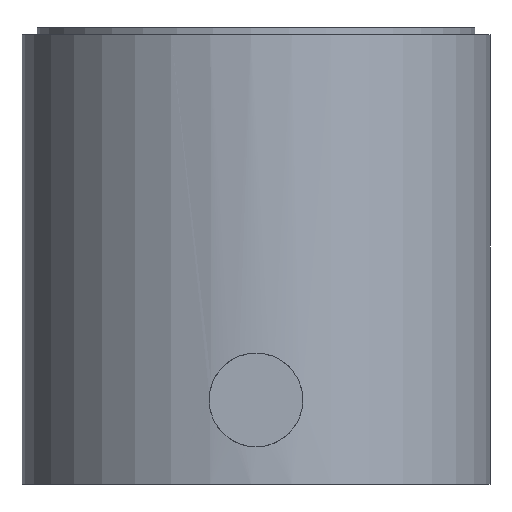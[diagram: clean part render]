
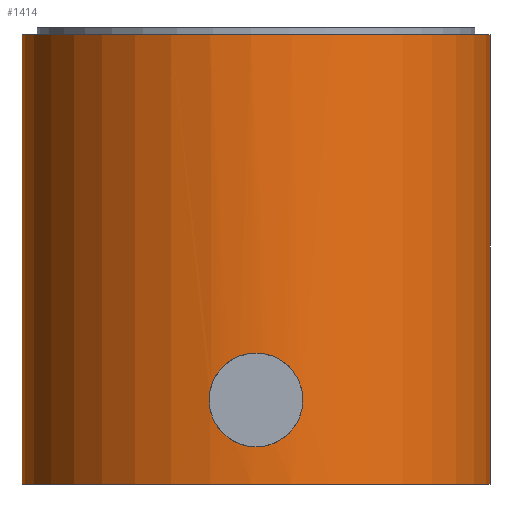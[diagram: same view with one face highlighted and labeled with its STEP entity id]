
A CAD part, front view. The second image highlights one B-rep face of the part: STEP entity #1414.
In plain terms, the highlighted cylindrical face has radius 10 mm (diameter 20 mm), a partial arc.
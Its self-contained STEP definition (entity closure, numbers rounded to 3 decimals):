
#3 = CYLINDRICAL_SURFACE ( 'NONE', #1348, 10. ) ;
#6 = CARTESIAN_POINT ( 'NONE',  ( 9.998, -0.215, 0. ) ) ;
#17 = LINE ( 'NONE', #1684, #310 ) ;
#21 = CARTESIAN_POINT ( 'NONE',  ( -1.797, -9.837, 2.712 ) ) ;
#31 = CARTESIAN_POINT ( 'NONE',  ( -2., -9.798, 3.6 ) ) ;
#33 = CARTESIAN_POINT ( 'NONE',  ( 1.947, -9.809, 4.125 ) ) ;
#36 = AXIS2_PLACEMENT_3D ( 'NONE', #458, #1438, #593 ) ;
#44 = CARTESIAN_POINT ( 'NONE',  ( -0.261, -9.997, 5.587 ) ) ;
#50 = CARTESIAN_POINT ( 'NONE',  ( -0.262, -10., 1.6 ) ) ;
#67 = EDGE_CURVE ( 'NONE', #545, #1709, #17, .T. ) ;
#78 = CARTESIAN_POINT ( 'NONE',  ( 0., 0., 19.2 ) ) ;
#93 = CARTESIAN_POINT ( 'NONE',  ( -1.321, -9.913, 5.107 ) ) ;
#111 = CARTESIAN_POINT ( 'NONE',  ( -2., -9.798, 3.6 ) ) ;
#125 = CARTESIAN_POINT ( 'NONE',  ( 0., 0., 0. ) ) ;
#128 = ORIENTED_EDGE ( 'NONE', *, *, #800, .F. ) ;
#133 = CIRCLE ( 'NONE', #699, 10. ) ;
#164 = CARTESIAN_POINT ( 'NONE',  ( 1.735, -9.849, 4.603 ) ) ;
#165 = CARTESIAN_POINT ( 'NONE',  ( -0.645, -9.98, 5.498 ) ) ;
#175 = CIRCLE ( 'NONE', #36, 10. ) ;
#201 = EDGE_CURVE ( 'NONE', #1452, #1753, #680, .T. ) ;
#205 = CARTESIAN_POINT ( 'NONE',  ( -1.897, -9.818, 2.954 ) ) ;
#230 = CARTESIAN_POINT ( 'NONE',  ( 1.507, -9.886, 2.279 ) ) ;
#249 = CARTESIAN_POINT ( 'NONE',  ( 0.13, -10., 1.6 ) ) ;
#289 = EDGE_LOOP ( 'NONE', ( #984, #128, #1199, #677 ) ) ;
#305 = CARTESIAN_POINT ( 'NONE',  ( 1.507, -9.886, 4.921 ) ) ;
#310 = VECTOR ( 'NONE', #973, 1000. ) ;
#412 = CARTESIAN_POINT ( 'NONE',  ( 0.52, -9.987, 1.664 ) ) ;
#437 = CARTESIAN_POINT ( 'NONE',  ( 2., -9.798, 3.6 ) ) ;
#451 = CARTESIAN_POINT ( 'NONE',  ( 1.323, -9.913, 5.106 ) ) ;
#458 = CARTESIAN_POINT ( 'NONE',  ( 0., 0., 19.2 ) ) ;
#478 = ORIENTED_EDGE ( 'NONE', *, *, #201, .F. ) ;
#506 = CARTESIAN_POINT ( 'NONE',  ( -1.935, -9.811, 4.121 ) ) ;
#509 = B_SPLINE_CURVE_WITH_KNOTS ( 'NONE', 3,
 ( #437, #1274, #33, #991, #164, #1140, #305, #451, #1425, #579, #1568, #715, #1705, #851, #44, #997, #165, #1149, #733, #1762, #93, #645, #1487, #910, #506, #1345, #1494, #31 ),
 .UNSPECIFIED., .F., .F.,
 ( 4, 2, 2, 2, 2, 2, 2, 2, 2, 2, 2, 2, 2, 4 ),
 ( 0.006, 0.007, 0.007, 0.008, 0.008, 0.009, 0.009, 0.01, 0.01, 0.011, 0.011, 0.012, 0.012, 0.013 ),
 .UNSPECIFIED. ) ;
#519 = VERTEX_POINT ( 'NONE', #6 ) ;
#541 = LINE ( 'NONE', #899, #876 ) ;
#545 = VERTEX_POINT ( 'NONE', #1322 ) ;
#579 = CARTESIAN_POINT ( 'NONE',  ( 1.004, -9.95, 5.335 ) ) ;
#593 = DIRECTION ( 'NONE',  ( 1., -0.022, 0. ) ) ;
#606 = CARTESIAN_POINT ( 'NONE',  ( 1.987, -9.801, 3.337 ) ) ;
#612 = CARTESIAN_POINT ( 'NONE',  ( -0.526, -9.989, 1.653 ) ) ;
#645 = CARTESIAN_POINT ( 'NONE',  ( -1.597, -9.873, 4.831 ) ) ;
#663 = CARTESIAN_POINT ( 'NONE',  ( -9.998, 0.215, 0. ) ) ;
#677 = ORIENTED_EDGE ( 'NONE', *, *, #1172, .T. ) ;
#680 = B_SPLINE_CURVE_WITH_KNOTS ( 'NONE', 3,
 ( #111, #1757, #1450, #1532, #205, #21, #1539, #1248, #701, #1388, #1706, #612, #50, #249, #1559, #412, #1241, #963, #1372, #230, #832, #1298, #1423, #1081, #1410, #606, #1378, #1192 ),
 .UNSPECIFIED., .F., .F.,
 ( 4, 2, 2, 2, 2, 2, 2, 2, 2, 2, 2, 2, 2, 4 ),
 ( 0., 0., 0.001, 0.001, 0.002, 0.002, 0.003, 0.004, 0.004, 0.005, 0.005, 0.005, 0.006, 0.006 ),
 .UNSPECIFIED. ) ;
#699 = AXIS2_PLACEMENT_3D ( 'NONE', #125, #1097, #1379 ) ;
#701 = CARTESIAN_POINT ( 'NONE',  ( -1.506, -9.886, 2.277 ) ) ;
#715 = CARTESIAN_POINT ( 'NONE',  ( 0.525, -9.989, 5.548 ) ) ;
#733 = CARTESIAN_POINT ( 'NONE',  ( -1.001, -9.95, 5.336 ) ) ;
#758 = DIRECTION ( 'NONE',  ( 0., 0., -1. ) ) ;
#800 = EDGE_CURVE ( 'NONE', #545, #946, #175, .T. ) ;
#832 = CARTESIAN_POINT ( 'NONE',  ( 1.59, -9.873, 2.38 ) ) ;
#851 = CARTESIAN_POINT ( 'NONE',  ( -0.131, -10., 5.6 ) ) ;
#876 = VECTOR ( 'NONE', #1195, 1000. ) ;
#899 = CARTESIAN_POINT ( 'NONE',  ( 9.998, -0.215, 19.2 ) ) ;
#910 = CARTESIAN_POINT ( 'NONE',  ( -1.897, -9.819, 4.248 ) ) ;
#946 = VERTEX_POINT ( 'NONE', #1615 ) ;
#955 = EDGE_CURVE ( 'NONE', #946, #519, #541, .T. ) ;
#963 = CARTESIAN_POINT ( 'NONE',  ( 1.008, -9.952, 1.853 ) ) ;
#973 = DIRECTION ( 'NONE',  ( 0., 0., -1. ) ) ;
#984 = ORIENTED_EDGE ( 'NONE', *, *, #955, .F. ) ;
#991 = CARTESIAN_POINT ( 'NONE',  ( 1.798, -9.837, 4.486 ) ) ;
#995 = CARTESIAN_POINT ( 'NONE',  ( 2., -9.798, 3.6 ) ) ;
#997 = CARTESIAN_POINT ( 'NONE',  ( -0.517, -9.987, 5.536 ) ) ;
#1081 = CARTESIAN_POINT ( 'NONE',  ( 1.898, -9.818, 2.955 ) ) ;
#1097 = DIRECTION ( 'NONE',  ( 0., 0., 1. ) ) ;
#1140 = CARTESIAN_POINT ( 'NONE',  ( 1.59, -9.873, 4.821 ) ) ;
#1149 = CARTESIAN_POINT ( 'NONE',  ( -0.887, -9.961, 5.398 ) ) ;
#1172 = EDGE_CURVE ( 'NONE', #1709, #519, #133, .T. ) ;
#1192 = CARTESIAN_POINT ( 'NONE',  ( 2., -9.798, 3.6 ) ) ;
#1195 = DIRECTION ( 'NONE',  ( 0., 0., -1. ) ) ;
#1199 = ORIENTED_EDGE ( 'NONE', *, *, #67, .T. ) ;
#1239 = ORIENTED_EDGE ( 'NONE', *, *, #1489, .F. ) ;
#1241 = CARTESIAN_POINT ( 'NONE',  ( 0.645, -9.98, 1.702 ) ) ;
#1248 = CARTESIAN_POINT ( 'NONE',  ( -1.59, -9.873, 2.38 ) ) ;
#1263 = EDGE_LOOP ( 'NONE', ( #478, #1239 ) ) ;
#1264 = CARTESIAN_POINT ( 'NONE',  ( -2., -9.798, 3.6 ) ) ;
#1274 = CARTESIAN_POINT ( 'NONE',  ( 2., -9.798, 3.861 ) ) ;
#1298 = CARTESIAN_POINT ( 'NONE',  ( 1.735, -9.849, 2.596 ) ) ;
#1322 = CARTESIAN_POINT ( 'NONE',  ( -9.998, 0.215, 19.2 ) ) ;
#1345 = CARTESIAN_POINT ( 'NONE',  ( -1.987, -9.801, 3.863 ) ) ;
#1348 = AXIS2_PLACEMENT_3D ( 'NONE', #78, #758, #1472 ) ;
#1350 = FACE_BOUND ( 'NONE', #1263, .T. ) ;
#1372 = CARTESIAN_POINT ( 'NONE',  ( 1.228, -9.926, 2. ) ) ;
#1378 = CARTESIAN_POINT ( 'NONE',  ( 2., -9.798, 3.469 ) ) ;
#1379 = DIRECTION ( 'NONE',  ( 1., -0.022, 0. ) ) ;
#1388 = CARTESIAN_POINT ( 'NONE',  ( -1.23, -9.926, 2.002 ) ) ;
#1410 = CARTESIAN_POINT ( 'NONE',  ( 1.936, -9.811, 3.079 ) ) ;
#1414 = ADVANCED_FACE ( 'NONE', ( #1418, #1350 ), #3, .T. ) ;
#1418 = FACE_OUTER_BOUND ( 'NONE', #289, .T. ) ;
#1423 = CARTESIAN_POINT ( 'NONE',  ( 1.797, -9.837, 2.713 ) ) ;
#1425 = CARTESIAN_POINT ( 'NONE',  ( 1.22, -9.926, 5.19 ) ) ;
#1438 = DIRECTION ( 'NONE',  ( 0., 0., 1. ) ) ;
#1450 = CARTESIAN_POINT ( 'NONE',  ( -1.987, -9.801, 3.337 ) ) ;
#1452 = VERTEX_POINT ( 'NONE', #1264 ) ;
#1472 = DIRECTION ( 'NONE',  ( -1., 0.022, 0. ) ) ;
#1487 = CARTESIAN_POINT ( 'NONE',  ( -1.746, -9.847, 4.609 ) ) ;
#1489 = EDGE_CURVE ( 'NONE', #1753, #1452, #509, .T. ) ;
#1494 = CARTESIAN_POINT ( 'NONE',  ( -2., -9.798, 3.732 ) ) ;
#1532 = CARTESIAN_POINT ( 'NONE',  ( -1.936, -9.811, 3.081 ) ) ;
#1539 = CARTESIAN_POINT ( 'NONE',  ( -1.735, -9.849, 2.597 ) ) ;
#1559 = CARTESIAN_POINT ( 'NONE',  ( 0.263, -9.997, 1.613 ) ) ;
#1568 = CARTESIAN_POINT ( 'NONE',  ( 0.889, -9.961, 5.396 ) ) ;
#1615 = CARTESIAN_POINT ( 'NONE',  ( 9.998, -0.215, 19.2 ) ) ;
#1684 = CARTESIAN_POINT ( 'NONE',  ( -9.998, 0.215, 19.2 ) ) ;
#1705 = CARTESIAN_POINT ( 'NONE',  ( 0.265, -10., 5.6 ) ) ;
#1706 = CARTESIAN_POINT ( 'NONE',  ( -1.007, -9.952, 1.853 ) ) ;
#1709 = VERTEX_POINT ( 'NONE', #663 ) ;
#1753 = VERTEX_POINT ( 'NONE', #995 ) ;
#1757 = CARTESIAN_POINT ( 'NONE',  ( -2., -9.798, 3.467 ) ) ;
#1762 = CARTESIAN_POINT ( 'NONE',  ( -1.219, -9.926, 5.191 ) ) ;
